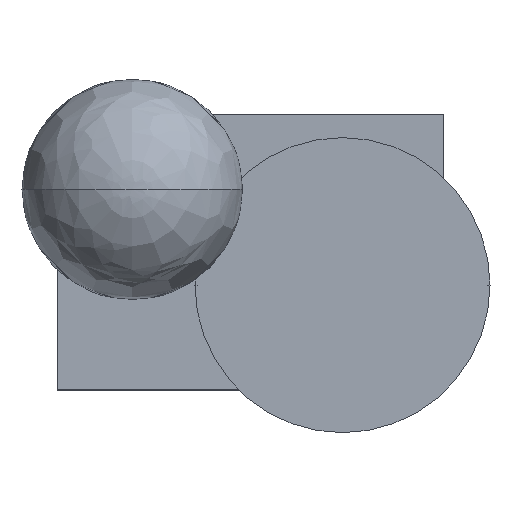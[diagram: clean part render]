
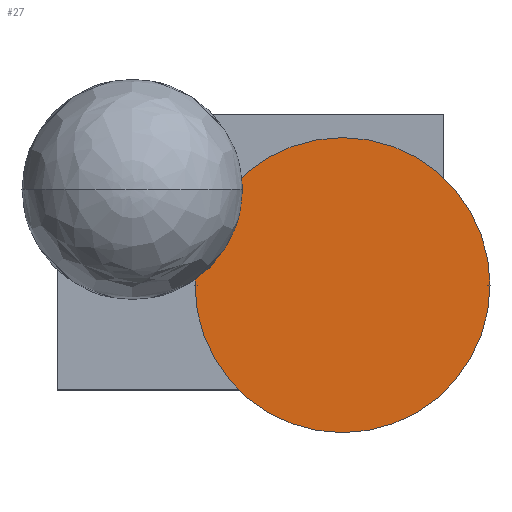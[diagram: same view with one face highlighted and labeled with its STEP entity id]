
A CAD part, top view. The second image highlights one B-rep face of the part: STEP entity #27.
In plain terms, the highlighted planar face has unit normal (0, 0, 1).
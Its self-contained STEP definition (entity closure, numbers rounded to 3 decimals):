
#27=ADVANCED_FACE('',(#41),#214,.T.);
#41=FACE_OUTER_BOUND('',#58,.T.);
#58=EDGE_LOOP('',(#105,#106));
#105=ORIENTED_EDGE('',*,*,#144,.F.);
#106=ORIENTED_EDGE('',*,*,#135,.F.);
#135=EDGE_CURVE('',#196,#202,#167,.T.);
#144=EDGE_CURVE('',#202,#196,#172,.T.);
#167=TRIMMED_CURVE($,#177,(#855),(#856),.T.,.CARTESIAN.);
#172=TRIMMED_CURVE($,#182,(#899),(#900),.T.,.CARTESIAN.);
#177=CIRCLE('',#318,53.5);
#182=CIRCLE('',#323,53.5);
#196=VERTEX_POINT('',#793);
#202=VERTEX_POINT('',#799);
#214=PLANE('',#313);
#313=AXIS2_PLACEMENT_3D('',#574,#336,$);
#318=AXIS2_PLACEMENT_3D($,#854,#344,#345);
#323=AXIS2_PLACEMENT_3D($,#898,#354,#355);
#336=DIRECTION('',(0.,0.,1.));
#344=DIRECTION('',(0.,0.,-1.));
#345=DIRECTION('',(1.,0.,0.));
#354=DIRECTION('',(0.,0.,-1.));
#355=DIRECTION('',(-1.,0.,0.));
#574=CARTESIAN_POINT('',(-21.07,42.57,38.));
#793=CARTESIAN_POINT('',(87.,-12.,38.));
#799=CARTESIAN_POINT('',(-20.,-12.,38.));
#854=CARTESIAN_POINT('',(33.5,-12.,38.));
#855=CARTESIAN_POINT('',(87.,-12.,38.));
#856=CARTESIAN_POINT('',(-20.,-12.,38.));
#898=CARTESIAN_POINT('',(33.5,-12.,38.));
#899=CARTESIAN_POINT('',(-20.,-12.,38.));
#900=CARTESIAN_POINT('',(87.,-12.,38.));
